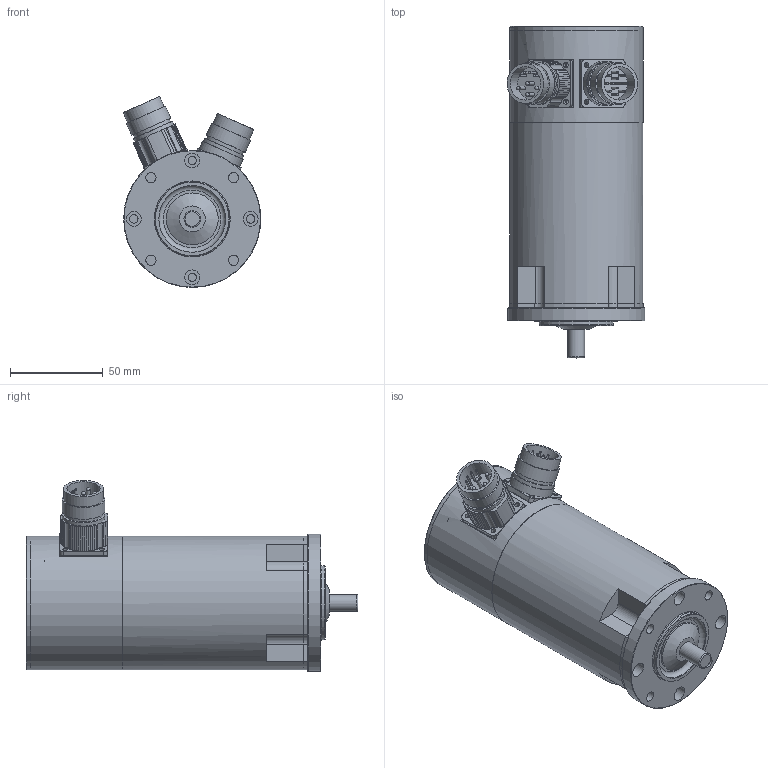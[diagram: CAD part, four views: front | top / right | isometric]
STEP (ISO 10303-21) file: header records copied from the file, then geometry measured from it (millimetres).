
FILE_DESCRIPTION(/* description */ (''),/* implementation_level */ '2;1');
FILE_NAME(/* name */ 'ksy_168e_r4',/* time_stamp */ '2007-03-16T12:42:54+01:00',/* author */ (''),/* organization */ (''),/* preprocessor_version */ 'ST-DEVELOPER v8',/* originating_system */ 'UNIGRAPHICS SOLUTIONS - UNIGRAPHICS 18.0',/* authorisation */ '');
FILE_SCHEMA (('AUTOMOTIVE_DESIGN { 1 2 10303 214 0 1 1 1 }'));
Length unit declared in the file: millimetre
Products named in the file (10): 06330401_0; DIN3760_org_A10x24x7_0; 014261_0; 014260_0; 064269_0; 111015_0; Rotor_SY 16.. E_0; Gehaeuse_SY 16.. E_0; 111014_0; KSY164_E-R4_0
Assembly tree (9 placements, depth 2):
  KSY164_E-R4_0
    111014_0
    Gehaeuse_SY 16.. E_0
    Rotor_SY 16.. E_0
    111015_0
    064269_0
    014260_0
    014261_0
    DIN3760_org_A10x24x7_0
    06330401_0
Bounding box: 74.28 x 179 x 103.04 mm (x, y, z)
Volume: 416505.5 mm3; surface area: 111633.3 mm2
Topology: 9 solids, 9 shells, 407 faces, 1022 edges, 657 vertices
Faces by surface type: cylinder 208, plane 113, cone 52, sphere 20, torus 14
Full cylindrical faces by diameter (mm): 1 x16, 2 x4, 2.135 x8, 2.459 x7, 2.7 x8, 3.4 x3, 3.5 x4, 4.5 x8, 5.5 x4, 6 x7, 8 x8, 8.52 x1, 8.95 x1, 9 x1, 10 x2, 10.3 x1, 18 x2, 20 x5, 21 x3, 21.5 x2, 22.5 x1, 23 x4, 24 x3, 26 x2, 28 x1, 36 x1, 40 x1, 44 x1, 49.3 x1, 51 x3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
Entity records: 10773 total; most frequent: DIRECTION 2006, CARTESIAN_POINT 1748, ORIENTED_EDGE 1378, AXIS2_PLACEMENT_3D 909, EDGE_LOOP 728, EDGE_CURVE 689, VERTEX_POINT 569, CIRCLE 491
